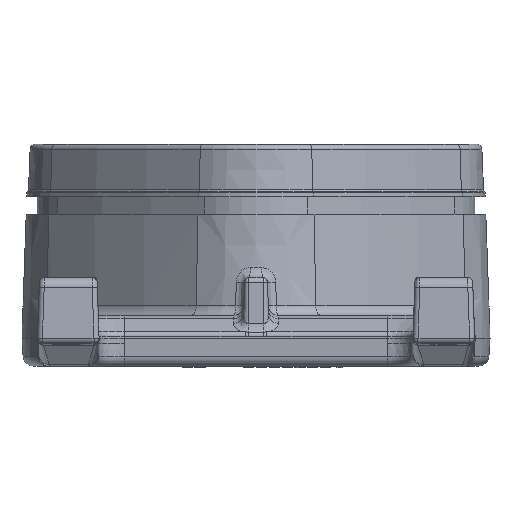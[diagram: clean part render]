
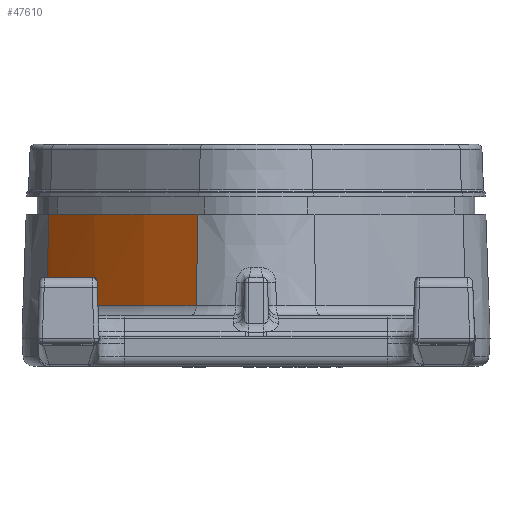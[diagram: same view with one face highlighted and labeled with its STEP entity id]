
A CAD part, left-side view. The second image highlights one B-rep face of the part: STEP entity #47610.
In plain terms, the highlighted conical face has half-angle 2 degrees and reference radius 150 mm.
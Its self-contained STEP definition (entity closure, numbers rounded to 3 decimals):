
#32931=AXIS2_PLACEMENT_3D('Cone Axis2P3D',#32928,#32929,#32930) ;
#42495=AXIS2_PLACEMENT_3D('Circle Axis2P3D',#42493,#42494,$) ;
#47600=AXIS2_PLACEMENT_3D('Circle Axis2P3D',#47598,#47599,$) ;
#32928=CARTESIAN_POINT('Axis2P3D Location',(48.084,-75.,0.)) ;
#37541=CARTESIAN_POINT('Vertex',(-47.309,41.405,-14.268)) ;
#42461=CARTESIAN_POINT('Control Point',(-48.576,40.345,-14.07)) ;
#42462=CARTESIAN_POINT('Control Point',(-48.424,40.473,-14.07)) ;
#42463=CARTESIAN_POINT('Control Point',(-48.272,40.6,-14.077)) ;
#42464=CARTESIAN_POINT('Control Point',(-48.119,40.728,-14.091)) ;
#42465=CARTESIAN_POINT('Control Point',(-47.865,40.94,-14.126)) ;
#42466=CARTESIAN_POINT('Control Point',(-47.612,41.151,-14.181)) ;
#42467=CARTESIAN_POINT('Control Point',(-47.511,41.236,-14.207)) ;
#42468=CARTESIAN_POINT('Control Point',(-47.409,41.321,-14.236)) ;
#42469=CARTESIAN_POINT('Control Point',(-47.309,41.405,-14.268)) ;
#42470=CARTESIAN_POINT('Vertex',(-48.576,40.345,-14.07)) ;
#42493=CARTESIAN_POINT('Axis2P3D Location',(48.084,-75.,-14.07)) ;
#42497=CARTESIAN_POINT('Vertex',(-74.837,11.822,-14.07)) ;
#42849=CARTESIAN_POINT('Line Origine',(-47.186,41.256,-8.75)) ;
#42853=CARTESIAN_POINT('Vertex',(-46.904,40.911,4.)) ;
#47591=CARTESIAN_POINT('Line Origine',(-74.686,11.715,-8.75)) ;
#47595=CARTESIAN_POINT('Vertex',(-74.322,11.458,4.)) ;
#47598=CARTESIAN_POINT('Axis2P3D Location',(48.084,-75.,4.)) ;
#32929=DIRECTION('Axis2P3D Direction',(-0.,-0.,-1.)) ;
#32930=DIRECTION('Axis2P3D XDirection',(-0.634,0.773,0.)) ;
#42494=DIRECTION('Axis2P3D Direction',(0.,-0.,1.)) ;
#42850=DIRECTION('Vector Direction',(-0.022,0.027,-0.999)) ;
#47592=DIRECTION('Vector Direction',(-0.029,0.02,-0.999)) ;
#47599=DIRECTION('Axis2P3D Direction',(0.,0.,1.)) ;
#42851=VECTOR('Line Direction',#42850,1.) ;
#47593=VECTOR('Line Direction',#47592,1.) ;
#47604=ORIENTED_EDGE('',*,*,#42472,.F.) ;
#47605=ORIENTED_EDGE('',*,*,#42499,.F.) ;
#47606=ORIENTED_EDGE('',*,*,#47597,.T.) ;
#47607=ORIENTED_EDGE('',*,*,#47602,.F.) ;
#47608=ORIENTED_EDGE('',*,*,#42855,.F.) ;
#47610=ADVANCED_FACE('Hold frame . INV MA St MET - INVEOR BG-A.1\\Adapter unbearbeitet',(#47609),#32932,.T.) ;
#42460=B_SPLINE_CURVE_WITH_KNOTS('',5,(#42461,#42462,#42463,#42464,#42465,#42466,#42467,#42468,#42469),.UNSPECIFIED.,.F.,.U.,(6,3,6),(10.245,11.518,12.377),.UNSPECIFIED.) ;
#42496=CIRCLE('generated circle',#42495,150.491) ;
#47601=CIRCLE('generated circle',#47600,149.86) ;
#32932=CONICAL_SURFACE('Cone',#32931,150.,0.035) ;
#42472=EDGE_CURVE('',#42471,#37542,#42460,.T.) ;
#42499=EDGE_CURVE('',#42498,#42471,#42496,.F.) ;
#42855=EDGE_CURVE('',#37542,#42854,#42852,.F.) ;
#47597=EDGE_CURVE('',#42498,#47596,#47594,.F.) ;
#47602=EDGE_CURVE('',#42854,#47596,#47601,.T.) ;
#47603=EDGE_LOOP('',(#47604,#47605,#47606,#47607,#47608)) ;
#47609=FACE_OUTER_BOUND('',#47603,.T.) ;
#42852=LINE('Line',#42849,#42851) ;
#47594=LINE('Line',#47591,#47593) ;
#37542=VERTEX_POINT('',#37541) ;
#42471=VERTEX_POINT('',#42470) ;
#42498=VERTEX_POINT('',#42497) ;
#42854=VERTEX_POINT('',#42853) ;
#47596=VERTEX_POINT('',#47595) ;
